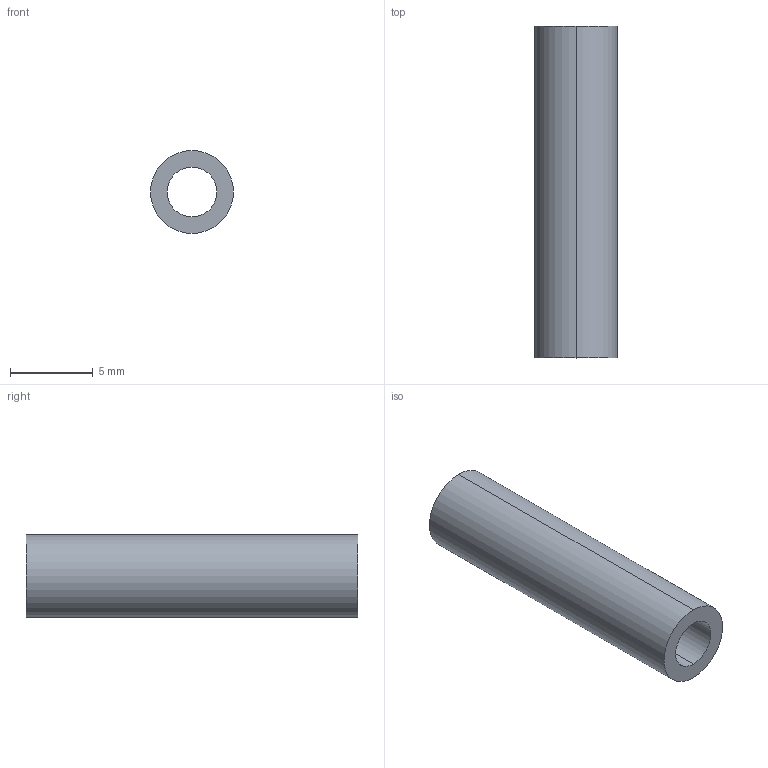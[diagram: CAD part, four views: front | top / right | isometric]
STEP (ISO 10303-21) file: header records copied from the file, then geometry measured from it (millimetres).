
FILE_DESCRIPTION (( 'STEP AP214' ), '1' );
FILE_NAME ('PCB_Support_20mm.STEP', '2025-05-05T23:09:52', ( '' ), ( '' ), 'SwSTEP 2.0', 'SolidWorks 2024', '' );
FILE_SCHEMA (( 'AUTOMOTIVE_DESIGN' ));
Length unit declared in the file: millimetre
Products named in the file (1): PCB_Support_20mm
Bounding box: 5 x 20 x 5 mm (x, y, z)
Volume: 251.3 mm3; surface area: 527.8 mm2
Topology: 1 solids, 1 shells, 6 faces, 12 edges, 8 vertices
Faces by surface type: cylinder 4, plane 2
Entity records: 191 total; most frequent: DIRECTION 34, CARTESIAN_POINT 27, ORIENTED_EDGE 24, AXIS2_PLACEMENT_3D 15, EDGE_CURVE 12, CIRCLE 8, VERTEX_POINT 8, EDGE_LOOP 8
